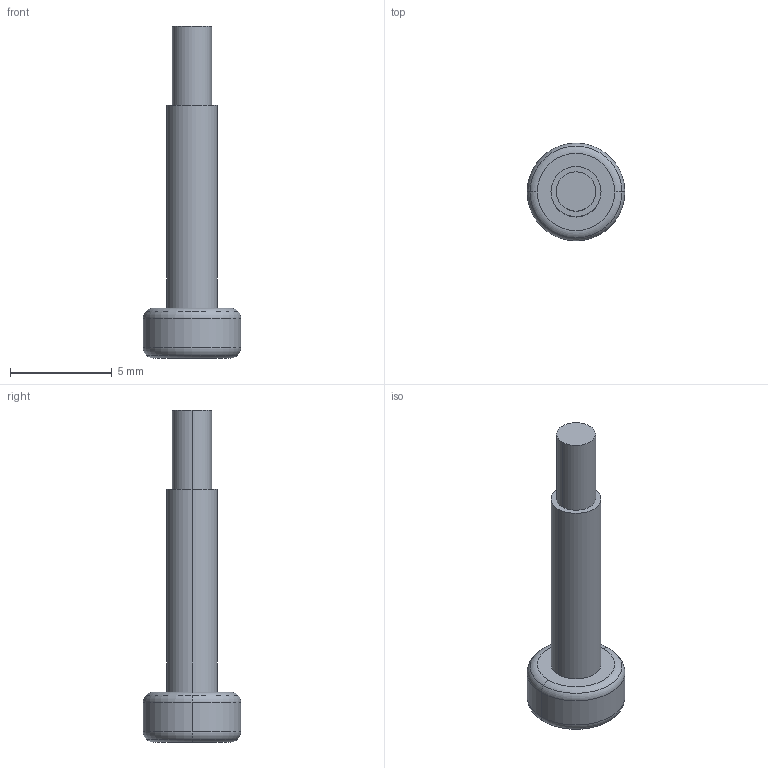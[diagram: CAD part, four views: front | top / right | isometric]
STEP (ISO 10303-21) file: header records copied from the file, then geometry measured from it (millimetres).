
FILE_DESCRIPTION((''),'2;1');
FILE_NAME('M2X2_5X20_SHSS_MACHINE_SCREW_-_','2024-05-15T17:23:50',('qinghui.yi'),(''),'CREO PARAMETRIC BY PTC INC, 2019164','CREO PARAMETRIC BY PTC INC, 2019164','');
FILE_SCHEMA(('CONFIG_CONTROL_DESIGN','SHAPE_APPEARANCE_LAYERS_GROUPS'));
Length unit declared in the file: millimetre
Products named in the file (1): M2X2_5X20_SHSS_MACHINE_SCREW_-_
Bounding box: 4.8 x 4.8 x 16.3 mm (x, y, z)
Volume: 97.6 mm3; surface area: 174.7 mm2
Topology: 1 solids, 1 shells, 25 faces, 55 edges, 38 vertices
Faces by surface type: plane 11, torus 8, cylinder 6
Entity records: 1234 total; most frequent: COLOUR_RGB 313, DIRECTION 135, CARTESIAN_POINT 113, ORIENTED_EDGE 104, PRESENTATION_STYLE_ASSIGNMENT 57, STYLED_ITEM 57, CURVE_STYLE 56, AXIS2_PLACEMENT_3D 54
